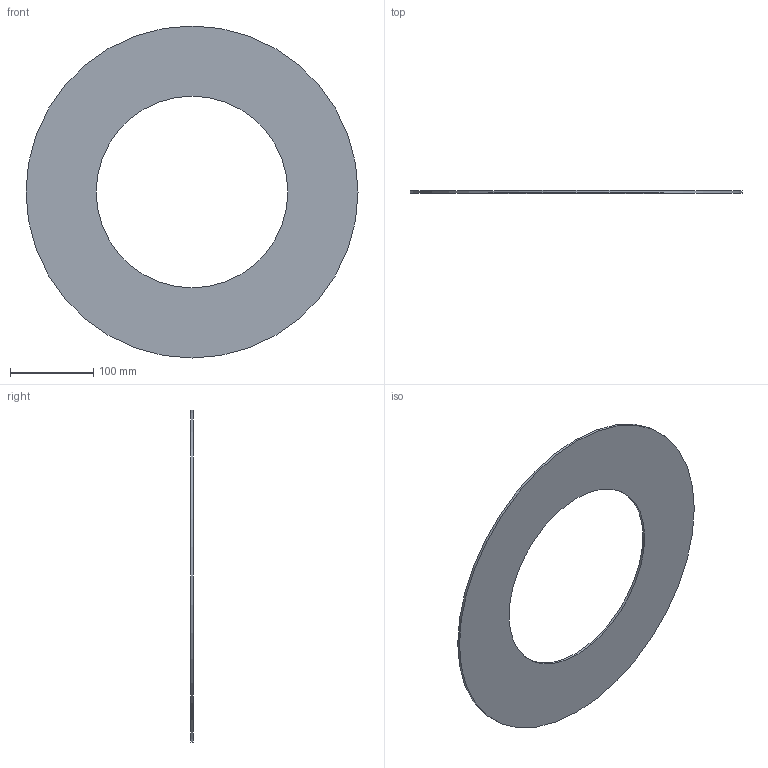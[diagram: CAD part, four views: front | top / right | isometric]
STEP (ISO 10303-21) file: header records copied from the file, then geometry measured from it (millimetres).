
FILE_DESCRIPTION(/* description */ ('Unknown'),/* implementation_level */ '2;1');
FILE_NAME(/* name */ 'GUA.315H',/* time_stamp */ '2021-04-01T15:06:36+02:00',/* author */ ('Unknown'),/* organization */ ('Unknown'),/* preprocessor_version */ 'ST-DEVELOPER v16.7',/* originating_system */ 'Solid Edge',/* authorisation */ 'Unknown');
FILE_SCHEMA (('AUTOMOTIVE_DESIGN {1 0 10303 214 3 1 1}'));
Length unit declared in the file: millimetre
Products named in the file (1): GUA.315H
Bounding box: 400 x 3 x 400 mm (x, y, z)
Volume: 251262.2 mm3; surface area: 173455.2 mm2
Topology: 1 solids, 1 shells, 4 faces, 6 edges, 4 vertices
Faces by surface type: cylinder 2, plane 2
Full cylindrical faces by diameter (mm): 231 x1, 400 x1
Entity records: 118 total; most frequent: DIRECTION 18, CARTESIAN_POINT 13, AXIS2_PLACEMENT_3D 9, ORIENTED_EDGE 8, EDGE_LOOP 8, FACE_BOUND 8, EDGE_CURVE 4, VERTEX_POINT 4
